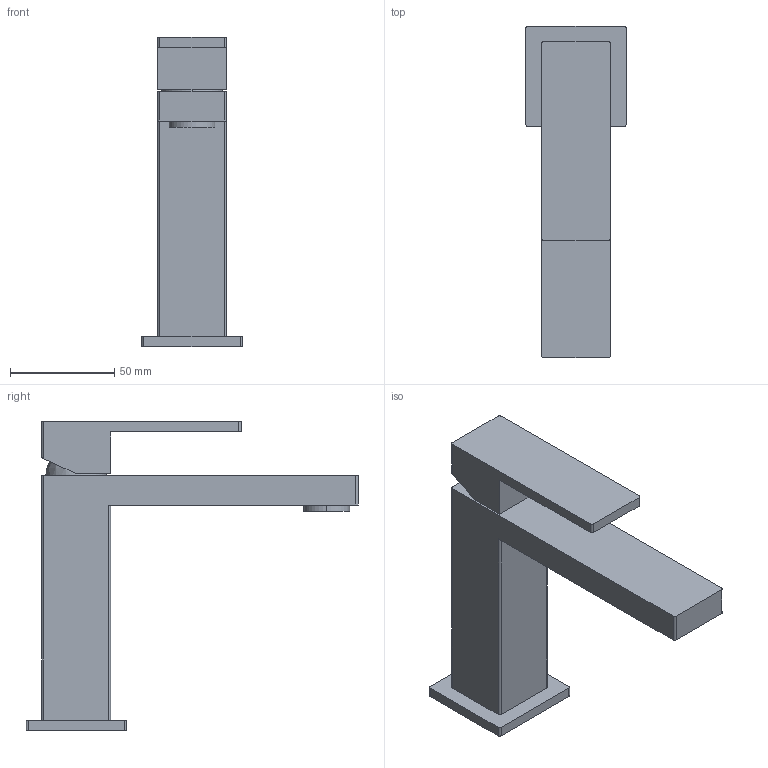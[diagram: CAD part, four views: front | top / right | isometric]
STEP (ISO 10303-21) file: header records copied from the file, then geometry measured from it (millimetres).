
FILE_DESCRIPTION(('FreeCAD Model'),'2;1');
FILE_NAME('Open CASCADE Shape Model','2024-08-08T17:34:08',('Author'),( ''),'Open CASCADE STEP processor 7.6','FreeCAD','Unknown');
FILE_SCHEMA(('AUTOMOTIVE_DESIGN { 1 0 10303 214 1 1 1 1 }'));
Length unit declared in the file: millimetre
Products named in the file (6): TopLevelAssembly; Wyciąganie001; Obrót profilu; Połączona geometria bryłowa; Połączona geometria bryłowa002; Wyciąganie002
Assembly tree (5 placements, depth 2):
  TopLevelAssembly
    Wyciąganie001
    Obrót profilu
    Połączona geometria bryłowa
    Połączona geometria bryłowa002
    Wyciąganie002
Bounding box: 48 x 159 x 148 mm (x, y, z)
Volume: 234470.5 mm3; surface area: 46771.1 mm2
Topology: 5 solids, 5 shells, 47 faces, 107 edges, 70 vertices
Faces by surface type: plane 29, cylinder 16, bspline 2
Entity records: 1491 total; most frequent: CARTESIAN_POINT 258, DIRECTION 247, ORIENTED_EDGE 214, EDGE_CURVE 107, AXIS2_PLACEMENT_3D 89, VERTEX_POINT 70, LINE 69, VECTOR 69
